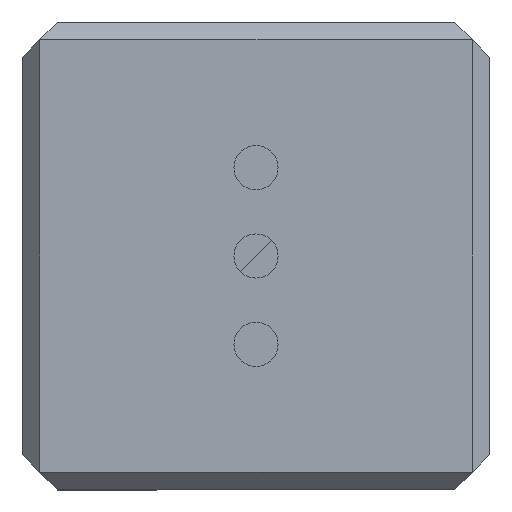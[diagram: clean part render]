
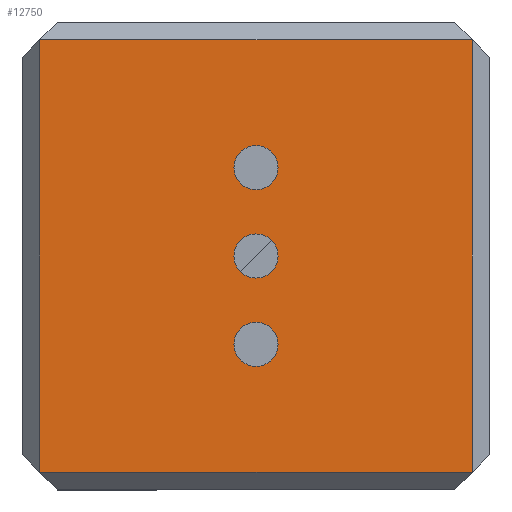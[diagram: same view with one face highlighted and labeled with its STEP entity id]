
A CAD part, front view. The second image highlights one B-rep face of the part: STEP entity #12750.
In plain terms, the highlighted planar face has unit normal (0, -1, 0).
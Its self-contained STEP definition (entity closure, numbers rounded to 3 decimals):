
#154 = CARTESIAN_POINT ( 'NONE',  ( 2.5, -59.5, 0. ) ) ;
#346 = ORIENTED_EDGE ( 'NONE', *, *, #5696, .T. ) ;
#414 = VERTEX_POINT ( 'NONE', #2179 ) ;
#543 = DIRECTION ( 'NONE',  ( 1., 0., 0. ) ) ;
#756 = VECTOR ( 'NONE', #4932, 1000. ) ;
#1051 = VERTEX_POINT ( 'NONE', #154 ) ;
#1234 = LINE ( 'NONE', #12515, #12211 ) ;
#1401 = CARTESIAN_POINT ( 'NONE',  ( 24.5, -59.5, -24.5 ) ) ;
#1608 = EDGE_CURVE ( 'NONE', #1051, #16900, #7339, .T. ) ;
#2154 = ORIENTED_EDGE ( 'NONE', *, *, #6715, .F. ) ;
#2179 = CARTESIAN_POINT ( 'NONE',  ( -2.5, -59.5, 10. ) ) ;
#2335 = VERTEX_POINT ( 'NONE', #1401 ) ;
#2400 = CARTESIAN_POINT ( 'NONE',  ( 0., -59.5, -10. ) ) ;
#2586 = VERTEX_POINT ( 'NONE', #10196 ) ;
#2653 = DIRECTION ( 'NONE',  ( 0., -1., 0. ) ) ;
#3059 = EDGE_LOOP ( 'NONE', ( #13842, #346, #12526, #5447 ) ) ;
#3093 = ORIENTED_EDGE ( 'NONE', *, *, #12592, .F. ) ;
#3226 = DIRECTION ( 'NONE',  ( 1., 0., 0. ) ) ;
#3408 = CIRCLE ( 'NONE', #12848, 2.5 ) ;
#3795 = CIRCLE ( 'NONE', #4397, 2.5 ) ;
#4123 = LINE ( 'NONE', #5599, #7881 ) ;
#4397 = AXIS2_PLACEMENT_3D ( 'NONE', #2400, #5091, #7859 ) ;
#4790 = VECTOR ( 'NONE', #3226, 1000. ) ;
#4792 = CARTESIAN_POINT ( 'NONE',  ( 2.5, -59.5, -10. ) ) ;
#4932 = DIRECTION ( 'NONE',  ( 0., 0., -1. ) ) ;
#5091 = DIRECTION ( 'NONE',  ( 0., -1., 0. ) ) ;
#5234 = DIRECTION ( 'NONE',  ( -1., 0., 0. ) ) ;
#5243 = FACE_BOUND ( 'NONE', #17470, .T. ) ;
#5348 = CIRCLE ( 'NONE', #13901, 2.5 ) ;
#5447 = ORIENTED_EDGE ( 'NONE', *, *, #11455, .T. ) ;
#5599 = CARTESIAN_POINT ( 'NONE',  ( -26.5, -59.5, 24.5 ) ) ;
#5696 = EDGE_CURVE ( 'NONE', #13847, #11931, #5945, .T. ) ;
#5753 = AXIS2_PLACEMENT_3D ( 'NONE', #12555, #11080, #7191 ) ;
#5945 = LINE ( 'NONE', #17271, #756 ) ;
#5986 = LINE ( 'NONE', #11622, #4790 ) ;
#6082 = DIRECTION ( 'NONE',  ( 0., -1., 0. ) ) ;
#6278 = DIRECTION ( 'NONE',  ( 0., -1., 0. ) ) ;
#6540 = CARTESIAN_POINT ( 'NONE',  ( 0., -59.5, 0. ) ) ;
#6715 = EDGE_CURVE ( 'NONE', #10819, #11692, #5348, .T. ) ;
#6844 = ORIENTED_EDGE ( 'NONE', *, *, #10942, .F. ) ;
#6997 = CIRCLE ( 'NONE', #7895, 2.5 ) ;
#7103 = VERTEX_POINT ( 'NONE', #11669 ) ;
#7191 = DIRECTION ( 'NONE',  ( 1., 0., 0. ) ) ;
#7339 = CIRCLE ( 'NONE', #14421, 2.5 ) ;
#7859 = DIRECTION ( 'NONE',  ( 1., 0., 0. ) ) ;
#7874 = EDGE_CURVE ( 'NONE', #11931, #2335, #5986, .T. ) ;
#7881 = VECTOR ( 'NONE', #5234, 1000. ) ;
#7895 = AXIS2_PLACEMENT_3D ( 'NONE', #6540, #6278, #10535 ) ;
#8014 = PLANE ( 'NONE',  #8408 ) ;
#8089 = CARTESIAN_POINT ( 'NONE',  ( 0., -59.5, 0. ) ) ;
#8276 = DIRECTION ( 'NONE',  ( 1., 0., 0. ) ) ;
#8408 = AXIS2_PLACEMENT_3D ( 'NONE', #17686, #12175, #14855 ) ;
#8776 = CARTESIAN_POINT ( 'NONE',  ( 0., -59.5, -10. ) ) ;
#10196 = CARTESIAN_POINT ( 'NONE',  ( 24.5, -59.5, 24.5 ) ) ;
#10220 = EDGE_LOOP ( 'NONE', ( #16649, #11104 ) ) ;
#10535 = DIRECTION ( 'NONE',  ( 1., 0., 0. ) ) ;
#10819 = VERTEX_POINT ( 'NONE', #15121 ) ;
#10942 = EDGE_CURVE ( 'NONE', #414, #7103, #3408, .T. ) ;
#11080 = DIRECTION ( 'NONE',  ( 0., -1., 0. ) ) ;
#11104 = ORIENTED_EDGE ( 'NONE', *, *, #17055, .F. ) ;
#11127 = ORIENTED_EDGE ( 'NONE', *, *, #16847, .F. ) ;
#11273 = CARTESIAN_POINT ( 'NONE',  ( -2.5, -59.5, 0. ) ) ;
#11455 = EDGE_CURVE ( 'NONE', #2335, #2586, #1234, .T. ) ;
#11622 = CARTESIAN_POINT ( 'NONE',  ( 26.5, -59.5, -24.5 ) ) ;
#11669 = CARTESIAN_POINT ( 'NONE',  ( 2.5, -59.5, 10. ) ) ;
#11692 = VERTEX_POINT ( 'NONE', #4792 ) ;
#11931 = VERTEX_POINT ( 'NONE', #12814 ) ;
#12175 = DIRECTION ( 'NONE',  ( 0., -1., 0. ) ) ;
#12211 = VECTOR ( 'NONE', #16725, 1000. ) ;
#12515 = CARTESIAN_POINT ( 'NONE',  ( 24.5, -59.5, 26.5 ) ) ;
#12526 = ORIENTED_EDGE ( 'NONE', *, *, #7874, .T. ) ;
#12555 = CARTESIAN_POINT ( 'NONE',  ( 0., -59.5, 10. ) ) ;
#12592 = EDGE_CURVE ( 'NONE', #7103, #414, #14021, .T. ) ;
#12750 = ADVANCED_FACE ( 'NONE', ( #13391, #5243, #13742, #16477 ), #8014, .T. ) ;
#12814 = CARTESIAN_POINT ( 'NONE',  ( -24.5, -59.5, -24.5 ) ) ;
#12848 = AXIS2_PLACEMENT_3D ( 'NONE', #17941, #2653, #16745 ) ;
#13391 = FACE_BOUND ( 'NONE', #10220, .T. ) ;
#13742 = FACE_BOUND ( 'NONE', #15681, .T. ) ;
#13842 = ORIENTED_EDGE ( 'NONE', *, *, #15118, .T. ) ;
#13847 = VERTEX_POINT ( 'NONE', #15812 ) ;
#13901 = AXIS2_PLACEMENT_3D ( 'NONE', #8776, #6082, #543 ) ;
#14021 = CIRCLE ( 'NONE', #5753, 2.5 ) ;
#14421 = AXIS2_PLACEMENT_3D ( 'NONE', #8089, #15369, #8276 ) ;
#14855 = DIRECTION ( 'NONE',  ( 1., 0., 0. ) ) ;
#15118 = EDGE_CURVE ( 'NONE', #2586, #13847, #4123, .T. ) ;
#15121 = CARTESIAN_POINT ( 'NONE',  ( -2.5, -59.5, -10. ) ) ;
#15369 = DIRECTION ( 'NONE',  ( 0., -1., 0. ) ) ;
#15681 = EDGE_LOOP ( 'NONE', ( #11127, #2154 ) ) ;
#15812 = CARTESIAN_POINT ( 'NONE',  ( -24.5, -59.5, 24.5 ) ) ;
#16477 = FACE_OUTER_BOUND ( 'NONE', #3059, .T. ) ;
#16649 = ORIENTED_EDGE ( 'NONE', *, *, #1608, .F. ) ;
#16725 = DIRECTION ( 'NONE',  ( 0., 0., 1. ) ) ;
#16745 = DIRECTION ( 'NONE',  ( 1., 0., 0. ) ) ;
#16847 = EDGE_CURVE ( 'NONE', #11692, #10819, #3795, .T. ) ;
#16900 = VERTEX_POINT ( 'NONE', #11273 ) ;
#17055 = EDGE_CURVE ( 'NONE', #16900, #1051, #6997, .T. ) ;
#17271 = CARTESIAN_POINT ( 'NONE',  ( -24.5, -59.5, -26.5 ) ) ;
#17470 = EDGE_LOOP ( 'NONE', ( #3093, #6844 ) ) ;
#17686 = CARTESIAN_POINT ( 'NONE',  ( 0., -59.5, 0. ) ) ;
#17941 = CARTESIAN_POINT ( 'NONE',  ( 0., -59.5, 10. ) ) ;
